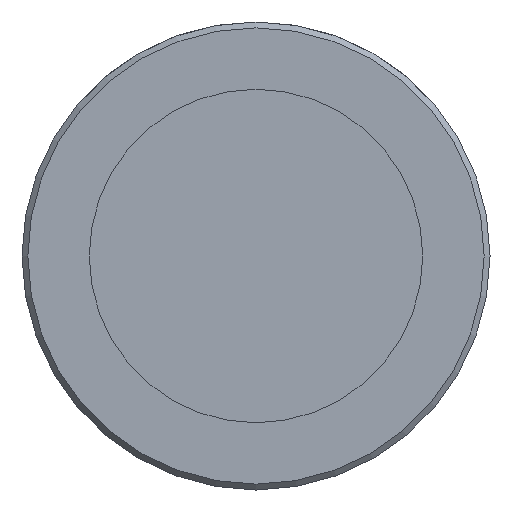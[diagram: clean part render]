
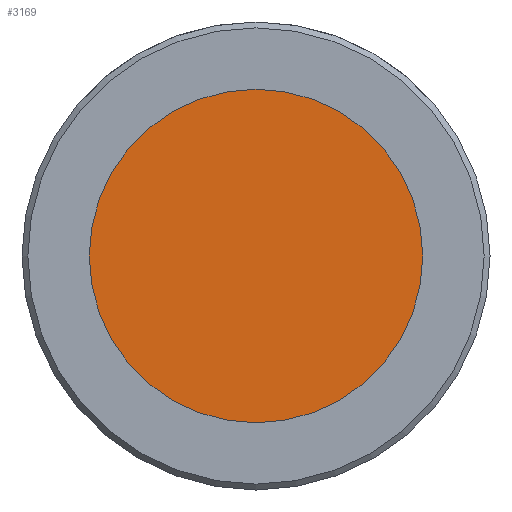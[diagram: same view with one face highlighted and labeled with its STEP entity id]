
A CAD part, left-side view. The second image highlights one B-rep face of the part: STEP entity #3169.
In plain terms, the highlighted planar face has unit normal (-1, 0, 0).
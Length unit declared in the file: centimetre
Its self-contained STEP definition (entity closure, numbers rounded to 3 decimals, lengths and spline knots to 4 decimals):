
#844=CIRCLE('',#3369,2.85);
#940=VERTEX_POINT('',#4128);
#1472=EDGE_CURVE('',#940,#940,#844,.T.);
#1891=ORIENTED_EDGE('',*,*,#1472,.T.);
#2690=EDGE_LOOP('',(#1891));
#2931=FACE_BOUND('',#2690,.T.);
#3169=ADVANCED_FACE('',(#2931),#18823,.T.);
#3369=AXIS2_PLACEMENT_3D('',#4127,#3610,#3611);
#3371=AXIS2_PLACEMENT_3D('',#4131,#3614,$);
#3610=DIRECTION('',(-1.,0.,0.));
#3611=DIRECTION('',(0.,0.,2.85));
#3614=DIRECTION('',(-1.,0.,0.));
#4127=CARTESIAN_POINT('',(0.1,0.,0.));
#4128=CARTESIAN_POINT('',(0.1,0.,2.85));
#4131=CARTESIAN_POINT('',(0.1,0.,0.));
#18823=PLANE('',#3371);
